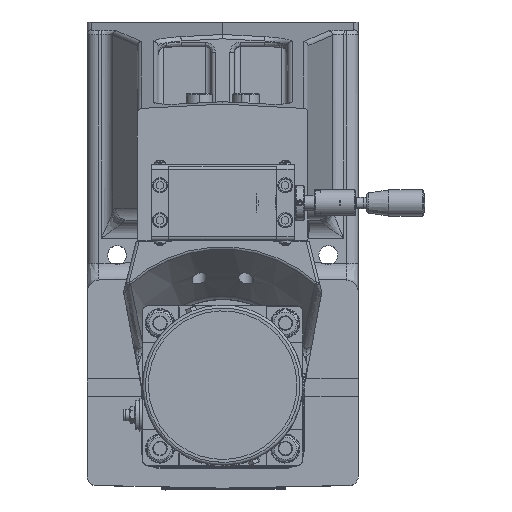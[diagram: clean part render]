
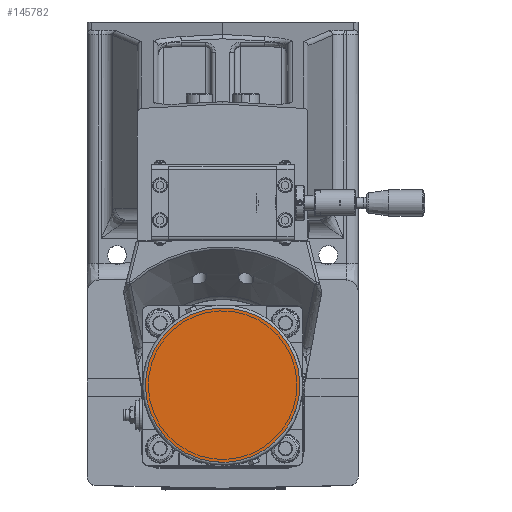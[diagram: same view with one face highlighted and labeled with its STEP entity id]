
A CAD part, top view. The second image highlights one B-rep face of the part: STEP entity #145782.
In plain terms, the highlighted planar face has unit normal (0, 0, 1).
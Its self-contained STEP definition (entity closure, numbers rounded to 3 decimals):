
#38147=PLANE('',#153898);
#45109=FACE_OUTER_BOUND('',#53214,.T.);
#53214=EDGE_LOOP('',(#112612));
#58990=CIRCLE('',#153897,53.);
#65968=VERTEX_POINT('',#218258);
#82757=EDGE_CURVE('',#65968,#65968,#58990,.T.);
#112612=ORIENTED_EDGE('',*,*,#82757,.F.);
#145782=ADVANCED_FACE('',(#45109),#38147,.F.);
#153897=AXIS2_PLACEMENT_3D('',#218259,#172101,#172102);
#153898=AXIS2_PLACEMENT_3D('',#218260,#172103,#172104);
#172101=DIRECTION('center_axis',(0.,0.,
-1.));
#172102=DIRECTION('ref_axis',(-0.924,-0.383,0.));
#172103=DIRECTION('center_axis',(0.,0.,
-1.));
#172104=DIRECTION('ref_axis',(-0.924,-0.383,0.));
#218258=CARTESIAN_POINT('',(48.966,-11.718,671.75));
#218259=CARTESIAN_POINT('Origin',(0.,-32.,
671.75));
#218260=CARTESIAN_POINT('Origin',(0.,-32.,
671.75));
